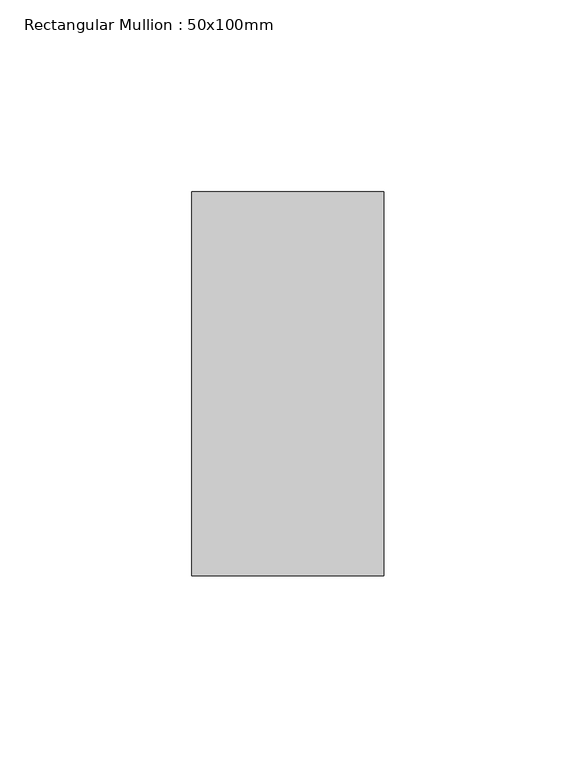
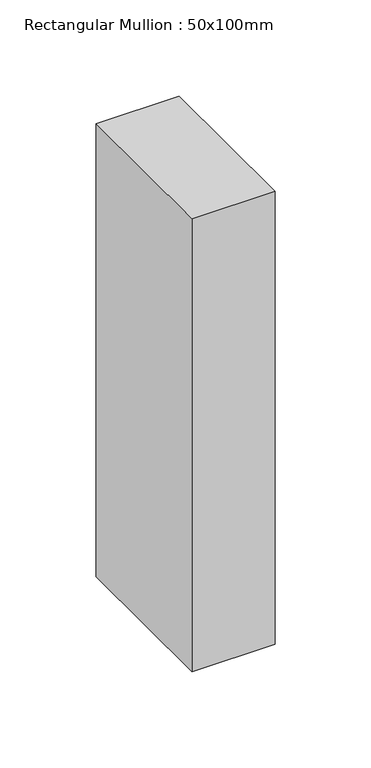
"""IFC4 building model written with IfcOpenShell, lengths in millimetres: member geometry, Rectangular Mullion : 50x100mm."""

from ifc_helpers import new_model, si_unit, frame, origin, place, context, project, spatial, polyline, outline, extrude, source, transform, mapped, element, save


def rectangular_mullion_50x100mm_584417f3(model_context):
    return source(origin(), model_context, "Body", "SweptSolid", [
        extrude(outline(polyline([(0.0, 50.0), (0.0, -50.0), (-50.0, -50.0), (-50.0, 50.0), (0.0, 50.0)])), frame((0.0, 0.0, -287.9539651), z_axis=(0.0, 0.0, 1.0), x_axis=(1.0, 0.0, 0.0)), (0.0, 0.0, 1.0), 287.9539651),
    ])


if __name__ == "__main__":
    model = new_model("IFC4")
    model_context = context("Model", 3, world=origin())
    ifc_project = project(units=[si_unit("LENGTHUNIT", "METRE", prefix="MILLI")], contexts=[model_context])
    site = spatial("IfcSite", under=ifc_project)
    building = spatial("IfcBuilding", under=site)
    placement = place(None, origin())
    rectangular_mullion_50x100mm_shape = rectangular_mullion_50x100mm_584417f3(model_context)
    element("IfcMember", 1, ObjectType="Rectangular Mullion : 50x100mm", at=placement, inside=building, context=model_context, shape_type="MappedRepresentation", body=[
        mapped(rectangular_mullion_50x100mm_shape, transform((0.0, 0.0, 0.0), x_axis=(1.0, 0.0, 0.0), y_axis=(0.0, 1.0, 0.0), z_axis=(0.0, 0.0, 1.0))),
    ])
    save(model, "model.ifc")
